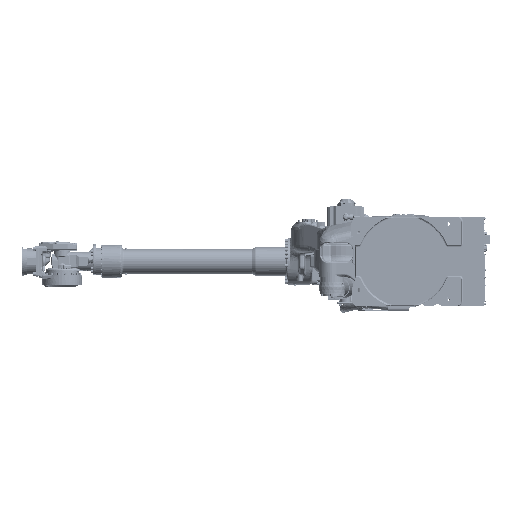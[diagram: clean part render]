
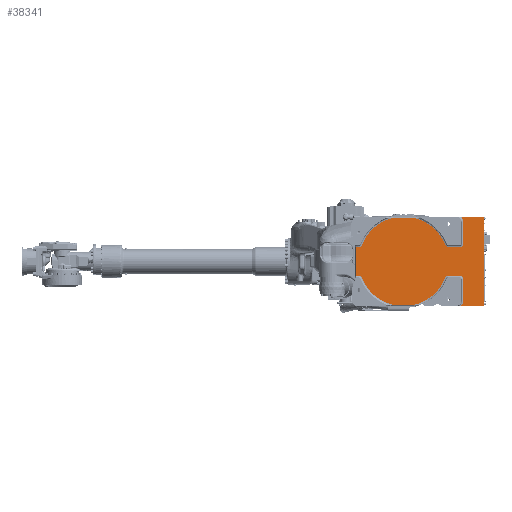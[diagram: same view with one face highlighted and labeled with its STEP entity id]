
A CAD part, front view. The second image highlights one B-rep face of the part: STEP entity #38341.
In plain terms, the highlighted planar face has unit normal (0, -1, 0).
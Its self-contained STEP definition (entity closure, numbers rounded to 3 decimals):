
#131=DIRECTION('',(0.,0.,-1.));
#132=VECTOR('',#131,10.);
#133=CARTESIAN_POINT('',(450.,10.,250.));
#134=LINE('',#133,#132);
#135=DIRECTION('',(-1.,0.,0.));
#136=VECTOR('',#135,3.2);
#137=CARTESIAN_POINT('',(453.2,10.,240.));
#138=LINE('',#137,#136);
#139=DIRECTION('',(-1.,0.,0.));
#140=VECTOR('',#139,3.2);
#141=CARTESIAN_POINT('',(453.2,10.,-240.));
#142=LINE('',#141,#140);
#143=DIRECTION('',(0.,0.,-1.));
#144=VECTOR('',#143,10.);
#145=CARTESIAN_POINT('',(450.,10.,-240.));
#146=LINE('',#145,#144);
#147=DIRECTION('',(-1.,0.,0.));
#148=VECTOR('',#147,128.542);
#149=CARTESIAN_POINT('',(450.,10.,-250.));
#150=LINE('',#149,#148);
#151=CARTESIAN_POINT('',(295.,10.,-220.));
#152=DIRECTION('',(0.,-1.,0.));
#153=DIRECTION('',(0.661,0.,-0.75));
#154=AXIS2_PLACEMENT_3D('',#151,#152,#153);
#156=DIRECTION('',(0.,0.,1.));
#157=VECTOR('',#156,120.);
#158=CARTESIAN_POINT('',(335.,10.,-220.));
#159=LINE('',#158,#157);
#160=CARTESIAN_POINT('',(315.,10.,-100.));
#161=DIRECTION('',(0.,-1.,0.));
#162=DIRECTION('',(1.,0.,0.));
#163=AXIS2_PLACEMENT_3D('',#160,#161,#162);
#165=DIRECTION('',(-1.,0.,0.));
#166=VECTOR('',#165,62.587);
#167=CARTESIAN_POINT('',(315.,10.,-80.));
#168=LINE('',#167,#166);
#169=CARTESIAN_POINT('',(252.413,10.,-100.));
#170=DIRECTION('',(0.,-1.,0.));
#171=DIRECTION('',(0.,0.,1.));
#172=AXIS2_PLACEMENT_3D('',#169,#170,#171);
#174=CARTESIAN_POINT('',(0.,10.,0.));
#175=DIRECTION('',(0.,1.,0.));
#176=DIRECTION('',(0.93,0.,-0.368));
#177=AXIS2_PLACEMENT_3D('',#174,#175,#176);
#179=DIRECTION('',(1.,0.,0.));
#180=VECTOR('',#179,113.618);
#181=CARTESIAN_POINT('',(-56.809,10.,-245.));
#182=LINE('',#181,#180);
#183=CARTESIAN_POINT('',(0.,10.,0.));
#184=DIRECTION('',(0.,1.,0.));
#185=DIRECTION('',(-0.226,0.,-0.974));
#186=AXIS2_PLACEMENT_3D('',#183,#184,#185);
#188=CARTESIAN_POINT('',(-252.413,10.,-100.));
#189=DIRECTION('',(0.,-1.,0.));
#190=DIRECTION('',(0.93,0.,0.368));
#191=AXIS2_PLACEMENT_3D('',#188,#189,#190);
#193=DIRECTION('',(-1.,0.,0.));
#194=VECTOR('',#193,12.588);
#195=CARTESIAN_POINT('',(-252.413,10.,-80.));
#196=LINE('',#195,#194);
#197=CARTESIAN_POINT('',(-390.,10.,-79.534));
#198=DIRECTION('',(0.,1.,0.));
#199=DIRECTION('',(1.,0.,0.));
#200=AXIS2_PLACEMENT_3D('',#197,#198,#199);
#202=DIRECTION('',(0.,0.,-1.));
#203=VECTOR('',#202,159.069);
#204=CARTESIAN_POINT('',(-265.,10.,79.534));
#205=LINE('',#204,#203);
#206=CARTESIAN_POINT('',(-390.,10.,79.534));
#207=DIRECTION('',(0.,1.,0.));
#208=DIRECTION('',(1.,0.,0.004));
#209=AXIS2_PLACEMENT_3D('',#206,#207,#208);
#211=DIRECTION('',(1.,0.,0.));
#212=VECTOR('',#211,12.588);
#213=CARTESIAN_POINT('',(-265.001,10.,80.));
#214=LINE('',#213,#212);
#215=CARTESIAN_POINT('',(-252.413,10.,100.));
#216=DIRECTION('',(0.,-1.,0.));
#217=DIRECTION('',(0.,0.,-1.));
#218=AXIS2_PLACEMENT_3D('',#215,#216,#217);
#220=CARTESIAN_POINT('',(0.,10.,0.));
#221=DIRECTION('',(0.,1.,0.));
#222=DIRECTION('',(-0.93,0.,0.368));
#223=AXIS2_PLACEMENT_3D('',#220,#221,#222);
#225=DIRECTION('',(-1.,0.,0.));
#226=VECTOR('',#225,113.618);
#227=CARTESIAN_POINT('',(56.809,10.,245.));
#228=LINE('',#227,#226);
#229=CARTESIAN_POINT('',(0.,10.,0.));
#230=DIRECTION('',(0.,-1.,0.));
#231=DIRECTION('',(0.93,0.,0.368));
#232=AXIS2_PLACEMENT_3D('',#229,#230,#231);
#234=CARTESIAN_POINT('',(252.413,10.,100.));
#235=DIRECTION('',(0.,1.,0.));
#236=DIRECTION('',(0.,0.,-1.));
#237=AXIS2_PLACEMENT_3D('',#234,#235,#236);
#239=DIRECTION('',(-1.,0.,0.));
#240=VECTOR('',#239,62.587);
#241=CARTESIAN_POINT('',(315.,10.,80.));
#242=LINE('',#241,#240);
#243=CARTESIAN_POINT('',(315.,10.,100.));
#244=DIRECTION('',(0.,1.,0.));
#245=DIRECTION('',(1.,0.,0.));
#246=AXIS2_PLACEMENT_3D('',#243,#244,#245);
#248=DIRECTION('',(0.,0.,-1.));
#249=VECTOR('',#248,120.);
#250=CARTESIAN_POINT('',(335.,10.,220.));
#251=LINE('',#250,#249);
#252=CARTESIAN_POINT('',(295.,10.,220.));
#253=DIRECTION('',(0.,1.,0.));
#254=DIRECTION('',(0.661,0.,0.75));
#255=AXIS2_PLACEMENT_3D('',#252,#253,#254);
#257=DIRECTION('',(1.,0.,0.));
#258=VECTOR('',#257,128.542);
#259=CARTESIAN_POINT('',(321.458,10.,250.));
#260=LINE('',#259,#258);
#660=DIRECTION('',(0.,0.,-1.));
#661=VECTOR('',#660,480.);
#662=CARTESIAN_POINT('',(453.2,10.,240.));
#663=LINE('',#662,#661);
#12025=CARTESIAN_POINT('',(-56.809,10.,245.));
#12171=CARTESIAN_POINT('',(321.458,10.,250.));
#18926=CARTESIAN_POINT('',(-265.001,10.,-80.));
#19214=CARTESIAN_POINT('',(321.458,10.,-250.));
#33596=CARTESIAN_POINT('',(-252.413,10.,80.));
#33597=CARTESIAN_POINT('',(-233.819,10.,92.634));
#33598=VERTEX_POINT('',#33596);
#33599=VERTEX_POINT('',#33597);
#33604=CARTESIAN_POINT('',(-233.819,10.,-92.634));
#33605=CARTESIAN_POINT('',(-252.413,10.,-80.));
#33606=VERTEX_POINT('',#33604);
#33607=VERTEX_POINT('',#33605);
#33612=CARTESIAN_POINT('',(315.,10.,-80.));
#33613=CARTESIAN_POINT('',(252.413,10.,-80.));
#33614=VERTEX_POINT('',#33612);
#33615=VERTEX_POINT('',#33613);
#33620=CARTESIAN_POINT('',(233.819,10.,-92.634));
#33621=VERTEX_POINT('',#33620);
#33624=VERTEX_POINT('',#19214);
#33627=VERTEX_POINT('',#12171);
#33710=CARTESIAN_POINT('',(252.413,10.,80.));
#33711=CARTESIAN_POINT('',(233.819,10.,92.634));
#33712=VERTEX_POINT('',#33710);
#33713=VERTEX_POINT('',#33711);
#33716=CARTESIAN_POINT('',(315.,10.,80.));
#33717=VERTEX_POINT('',#33716);
#33988=CARTESIAN_POINT('',(335.,10.,-220.));
#33989=VERTEX_POINT('',#33988);
#33990=CARTESIAN_POINT('',(335.,10.,-100.));
#33991=VERTEX_POINT('',#33990);
#33994=CARTESIAN_POINT('',(335.,10.,220.));
#33995=VERTEX_POINT('',#33994);
#34000=CARTESIAN_POINT('',(335.,10.,100.));
#34001=VERTEX_POINT('',#34000);
#34002=CARTESIAN_POINT('',(450.,10.,250.));
#34003=VERTEX_POINT('',#34002);
#34004=CARTESIAN_POINT('',(450.,10.,-250.));
#34005=VERTEX_POINT('',#34004);
#34174=CARTESIAN_POINT('',(-56.809,10.,-245.));
#34175=CARTESIAN_POINT('',(56.809,10.,-245.));
#34176=VERTEX_POINT('',#34174);
#34177=VERTEX_POINT('',#34175);
#34191=VERTEX_POINT('',#18926);
#34192=CARTESIAN_POINT('',(-265.,10.,-79.534));
#34193=VERTEX_POINT('',#34192);
#34196=CARTESIAN_POINT('',(-265.,10.,79.534));
#34197=VERTEX_POINT('',#34196);
#34200=CARTESIAN_POINT('',(-265.001,10.,80.));
#34201=VERTEX_POINT('',#34200);
#34213=VERTEX_POINT('',#12025);
#34214=CARTESIAN_POINT('',(56.809,10.,245.));
#34215=VERTEX_POINT('',#34214);
#36263=CARTESIAN_POINT('',(453.2,10.,240.));
#36265=VERTEX_POINT('',#36263);
#36266=CARTESIAN_POINT('',(453.2,10.,-240.));
#36268=VERTEX_POINT('',#36266);
#36282=CARTESIAN_POINT('',(450.,10.,240.));
#36284=VERTEX_POINT('',#36282);
#36287=CARTESIAN_POINT('',(450.,10.,-240.));
#36289=VERTEX_POINT('',#36287);
#38277=CARTESIAN_POINT('',(450.,10.,-170.));
#38278=DIRECTION('',(0.,-1.,0.));
#38279=DIRECTION('',(0.,0.,1.));
#38280=AXIS2_PLACEMENT_3D('',#38277,#38278,#38279);
#38281=PLANE('',#38280);
#38283=ORIENTED_EDGE('',*,*,#38282,.T.);
#38285=ORIENTED_EDGE('',*,*,#38284,.F.);
#38287=ORIENTED_EDGE('',*,*,#38286,.T.);
#38288=ORIENTED_EDGE('',*,*,#38269,.T.);
#38289=ORIENTED_EDGE('',*,*,#38258,.T.);
#38290=ORIENTED_EDGE('',*,*,#38245,.T.);
#38292=ORIENTED_EDGE('',*,*,#38291,.T.);
#38294=ORIENTED_EDGE('',*,*,#38293,.T.);
#38296=ORIENTED_EDGE('',*,*,#38295,.T.);
#38298=ORIENTED_EDGE('',*,*,#38297,.T.);
#38300=ORIENTED_EDGE('',*,*,#38299,.T.);
#38302=ORIENTED_EDGE('',*,*,#38301,.T.);
#38304=ORIENTED_EDGE('',*,*,#38303,.F.);
#38306=ORIENTED_EDGE('',*,*,#38305,.T.);
#38308=ORIENTED_EDGE('',*,*,#38307,.T.);
#38310=ORIENTED_EDGE('',*,*,#38309,.T.);
#38312=ORIENTED_EDGE('',*,*,#38311,.F.);
#38314=ORIENTED_EDGE('',*,*,#38313,.F.);
#38316=ORIENTED_EDGE('',*,*,#38315,.F.);
#38318=ORIENTED_EDGE('',*,*,#38317,.T.);
#38320=ORIENTED_EDGE('',*,*,#38319,.T.);
#38322=ORIENTED_EDGE('',*,*,#38321,.T.);
#38324=ORIENTED_EDGE('',*,*,#38323,.F.);
#38326=ORIENTED_EDGE('',*,*,#38325,.F.);
#38328=ORIENTED_EDGE('',*,*,#38327,.F.);
#38330=ORIENTED_EDGE('',*,*,#38329,.F.);
#38332=ORIENTED_EDGE('',*,*,#38331,.F.);
#38334=ORIENTED_EDGE('',*,*,#38333,.F.);
#38336=ORIENTED_EDGE('',*,*,#38335,.F.);
#38338=ORIENTED_EDGE('',*,*,#38337,.T.);
#38339=EDGE_LOOP('',(#38283,#38285,#38287,#38288,#38289,#38290,#38292,#38294,
#38296,#38298,#38300,#38302,#38304,#38306,#38308,#38310,#38312,#38314,#38316,
#38318,#38320,#38322,#38324,#38326,#38328,#38330,#38332,#38334,#38336,#38338));
#38340=FACE_OUTER_BOUND('',#38339,.F.);
#38341=ADVANCED_FACE('',(#38340),#38281,.T.);
#155=CIRCLE('',#154,40.);
#164=CIRCLE('',#163,20.);
#173=CIRCLE('',#172,20.);
#178=CIRCLE('',#177,251.5);
#187=CIRCLE('',#186,251.5);
#192=CIRCLE('',#191,20.);
#201=CIRCLE('',#200,125.);
#210=CIRCLE('',#209,125.);
#219=CIRCLE('',#218,20.);
#224=CIRCLE('',#223,251.5);
#233=CIRCLE('',#232,251.5);
#238=CIRCLE('',#237,20.);
#247=CIRCLE('',#246,20.);
#256=CIRCLE('',#255,40.);
#38245=EDGE_CURVE('',#34005,#33624,#150,.T.);
#38258=EDGE_CURVE('',#36289,#34005,#146,.T.);
#38269=EDGE_CURVE('',#36268,#36289,#142,.T.);
#38282=EDGE_CURVE('',#34003,#36284,#134,.T.);
#38284=EDGE_CURVE('',#36265,#36284,#138,.T.);
#38286=EDGE_CURVE('',#36265,#36268,#663,.T.);
#38291=EDGE_CURVE('',#33624,#33989,#155,.T.);
#38293=EDGE_CURVE('',#33989,#33991,#159,.T.);
#38295=EDGE_CURVE('',#33991,#33614,#164,.T.);
#38297=EDGE_CURVE('',#33614,#33615,#168,.T.);
#38299=EDGE_CURVE('',#33615,#33621,#173,.T.);
#38301=EDGE_CURVE('',#33621,#34177,#178,.T.);
#38303=EDGE_CURVE('',#34176,#34177,#182,.T.);
#38305=EDGE_CURVE('',#34176,#33606,#187,.T.);
#38307=EDGE_CURVE('',#33606,#33607,#192,.T.);
#38309=EDGE_CURVE('',#33607,#34191,#196,.T.);
#38311=EDGE_CURVE('',#34193,#34191,#201,.T.);
#38313=EDGE_CURVE('',#34197,#34193,#205,.T.);
#38315=EDGE_CURVE('',#34201,#34197,#210,.T.);
#38317=EDGE_CURVE('',#34201,#33598,#214,.T.);
#38319=EDGE_CURVE('',#33598,#33599,#219,.T.);
#38321=EDGE_CURVE('',#33599,#34213,#224,.T.);
#38323=EDGE_CURVE('',#34215,#34213,#228,.T.);
#38325=EDGE_CURVE('',#33713,#34215,#233,.T.);
#38327=EDGE_CURVE('',#33712,#33713,#238,.T.);
#38329=EDGE_CURVE('',#33717,#33712,#242,.T.);
#38331=EDGE_CURVE('',#34001,#33717,#247,.T.);
#38333=EDGE_CURVE('',#33995,#34001,#251,.T.);
#38335=EDGE_CURVE('',#33627,#33995,#256,.T.);
#38337=EDGE_CURVE('',#33627,#34003,#260,.T.);
